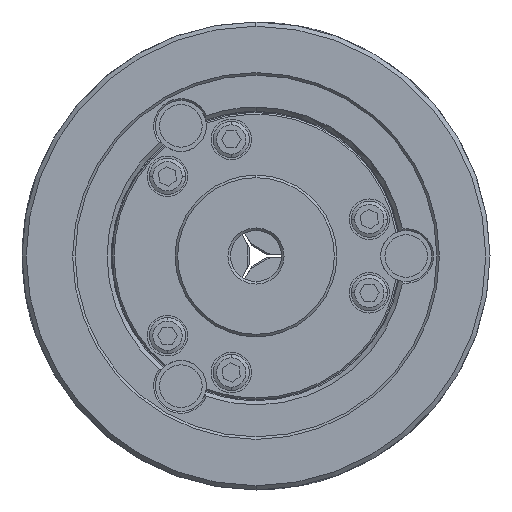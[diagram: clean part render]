
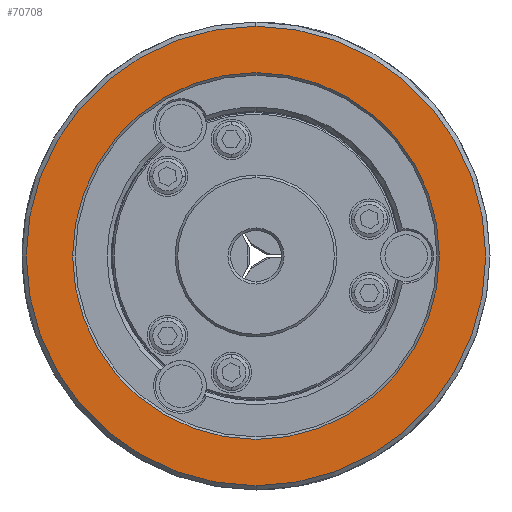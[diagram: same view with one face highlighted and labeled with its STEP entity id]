
A CAD part, left-side view. The second image highlights one B-rep face of the part: STEP entity #70708.
In plain terms, the highlighted planar face has unit normal (-1, 0, 0).
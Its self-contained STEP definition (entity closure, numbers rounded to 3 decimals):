
#1969 = AXIS2_PLACEMENT_3D ( 'NONE', #15724, #60348, #22187 ) ;
#5969 = CARTESIAN_POINT ( 'NONE',  ( -59., -43.1, 0. ) ) ;
#6198 = CARTESIAN_POINT ( 'NONE',  ( -59., 0., 0. ) ) ;
#6230 = CARTESIAN_POINT ( 'NONE',  ( -59., 0., -54. ) ) ;
#7025 = EDGE_LOOP ( 'NONE', ( #50796, #57758 ) ) ;
#8101 = CARTESIAN_POINT ( 'NONE',  ( -59., 0., 0. ) ) ;
#9309 = CIRCLE ( 'NONE', #33658, 43.1 ) ;
#11212 = ORIENTED_EDGE ( 'NONE', *, *, #18476, .F. ) ;
#12645 = DIRECTION ( 'NONE',  ( 0., -1., 0. ) ) ;
#13574 = VERTEX_POINT ( 'NONE', #5969 ) ;
#14569 = DIRECTION ( 'NONE',  ( 0., -1., 0. ) ) ;
#15724 = CARTESIAN_POINT ( 'NONE',  ( -59., 0., 0. ) ) ;
#17044 = CARTESIAN_POINT ( 'NONE',  ( -59., 27., -46.765 ) ) ;
#18476 = EDGE_CURVE ( 'NONE', #34469, #55775, #31194, .T. ) ;
#22187 = DIRECTION ( 'NONE',  ( 0., 0., -1. ) ) ;
#23708 = DIRECTION ( 'NONE',  ( 1., 0., 0. ) ) ;
#25342 = CIRCLE ( 'NONE', #43779, 43.1 ) ;
#27152 = CIRCLE ( 'NONE', #32040, 54. ) ;
#29895 = DIRECTION ( 'NONE',  ( 0., 0., 1. ) ) ;
#31194 = CIRCLE ( 'NONE', #1969, 54. ) ;
#32040 = AXIS2_PLACEMENT_3D ( 'NONE', #61860, #23708, #68334 ) ;
#33658 = AXIS2_PLACEMENT_3D ( 'NONE', #8101, #52743, #14569 ) ;
#34469 = VERTEX_POINT ( 'NONE', #6230 ) ;
#38569 = FACE_BOUND ( 'NONE', #7025, .T. ) ;
#40831 = AXIS2_PLACEMENT_3D ( 'NONE', #17044, #68078, #29895 ) ;
#42448 = PLANE ( 'NONE',  #40831 ) ;
#42573 = CARTESIAN_POINT ( 'NONE',  ( -59., 0., 54. ) ) ;
#43779 = AXIS2_PLACEMENT_3D ( 'NONE', #6198, #50852, #12645 ) ;
#48063 = CARTESIAN_POINT ( 'NONE',  ( -59., 43.1, 0. ) ) ;
#50796 = ORIENTED_EDGE ( 'NONE', *, *, #58264, .T. ) ;
#50852 = DIRECTION ( 'NONE',  ( 1., 0., 0. ) ) ;
#51107 = EDGE_LOOP ( 'NONE', ( #11212, #61711 ) ) ;
#52743 = DIRECTION ( 'NONE',  ( 1., 0., 0. ) ) ;
#55775 = VERTEX_POINT ( 'NONE', #42573 ) ;
#57758 = ORIENTED_EDGE ( 'NONE', *, *, #58467, .T. ) ;
#58264 = EDGE_CURVE ( 'NONE', #13574, #75772, #25342, .T. ) ;
#58467 = EDGE_CURVE ( 'NONE', #75772, #13574, #9309, .T. ) ;
#58741 = EDGE_CURVE ( 'NONE', #55775, #34469, #27152, .T. ) ;
#60348 = DIRECTION ( 'NONE',  ( 1., 0., 0. ) ) ;
#61711 = ORIENTED_EDGE ( 'NONE', *, *, #58741, .F. ) ;
#61860 = CARTESIAN_POINT ( 'NONE',  ( -59., 0., 0. ) ) ;
#68078 = DIRECTION ( 'NONE',  ( -1., 0., 0. ) ) ;
#68334 = DIRECTION ( 'NONE',  ( 0., 0., -1. ) ) ;
#70708 = ADVANCED_FACE ( 'NONE', ( #72485, #38569 ), #42448, .T. ) ;
#72485 = FACE_OUTER_BOUND ( 'NONE', #51107, .T. ) ;
#75772 = VERTEX_POINT ( 'NONE', #48063 ) ;
